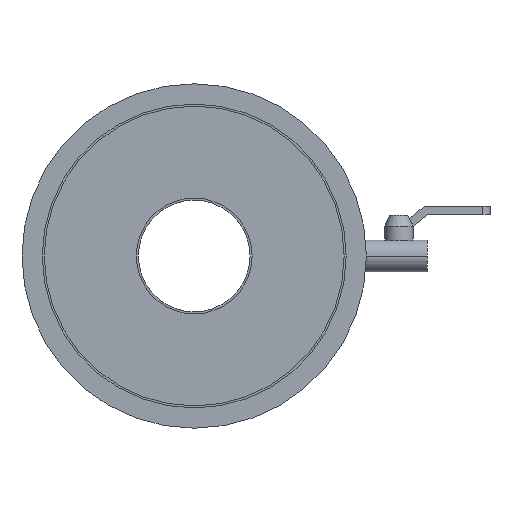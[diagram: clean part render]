
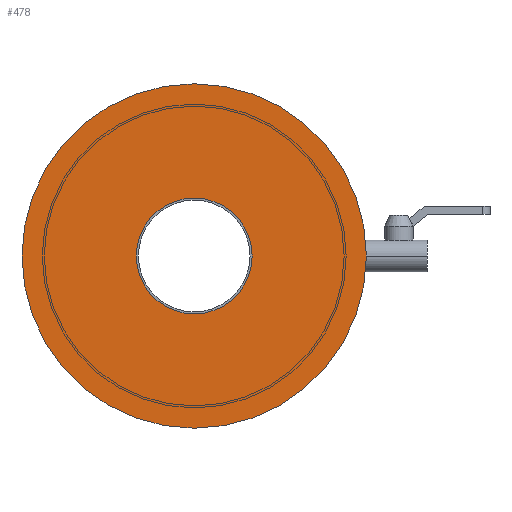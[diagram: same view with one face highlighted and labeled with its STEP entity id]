
A CAD part, left-side view. The second image highlights one B-rep face of the part: STEP entity #478.
In plain terms, the highlighted planar face has unit normal (-1, 0, 0).
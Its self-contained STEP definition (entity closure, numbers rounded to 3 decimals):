
#149=CARTESIAN_POINT('',(-253.,0.,0.));
#150=DIRECTION('',(-1.,0.,0.));
#151=DIRECTION('',(0.,1.,0.));
#152=AXIS2_PLACEMENT_3D('',#149,#150,#151);
#154=CARTESIAN_POINT('',(-253.,0.,0.));
#155=DIRECTION('',(1.,0.,0.));
#156=DIRECTION('',(0.,1.,0.));
#157=AXIS2_PLACEMENT_3D('',#154,#155,#156);
#159=CARTESIAN_POINT('',(-253.,0.,0.));
#160=DIRECTION('',(1.,0.,0.));
#161=DIRECTION('',(0.,1.,0.));
#162=AXIS2_PLACEMENT_3D('',#159,#160,#161);
#164=CARTESIAN_POINT('',(-253.,0.,0.));
#165=DIRECTION('',(1.,0.,0.));
#166=DIRECTION('',(0.,-1.,0.));
#167=AXIS2_PLACEMENT_3D('',#164,#165,#166);
#346=CARTESIAN_POINT('',(-253.,170.,0.));
#348=VERTEX_POINT('',#346);
#358=CARTESIAN_POINT('',(-253.,-170.,0.));
#360=VERTEX_POINT('',#358);
#397=CARTESIAN_POINT('',(-253.,57.15,0.));
#398=CARTESIAN_POINT('',(-253.,-57.15,0.));
#399=VERTEX_POINT('',#397);
#400=VERTEX_POINT('',#398);
#462=CARTESIAN_POINT('',(-253.,0.,0.));
#463=DIRECTION('',(1.,0.,0.));
#464=DIRECTION('',(0.,-1.,0.));
#465=AXIS2_PLACEMENT_3D('',#462,#463,#464);
#466=PLANE('',#465);
#468=ORIENTED_EDGE('',*,*,#467,.F.);
#470=ORIENTED_EDGE('',*,*,#469,.T.);
#471=EDGE_LOOP('',(#468,#470));
#472=FACE_OUTER_BOUND('',#471,.F.);
#474=ORIENTED_EDGE('',*,*,#473,.F.);
#475=ORIENTED_EDGE('',*,*,#452,.F.);
#476=EDGE_LOOP('',(#474,#475));
#477=FACE_BOUND('',#476,.F.);
#153=CIRCLE('',#152,170.);
#158=CIRCLE('',#157,170.);
#163=CIRCLE('',#162,57.15);
#168=CIRCLE('',#167,57.15);
#452=EDGE_CURVE('',#400,#399,#168,.T.);
#467=EDGE_CURVE('',#348,#360,#153,.T.);
#469=EDGE_CURVE('',#348,#360,#158,.T.);
#473=EDGE_CURVE('',#399,#400,#163,.T.);
#478=ADVANCED_FACE('',(#472,#477),#466,.F.);
